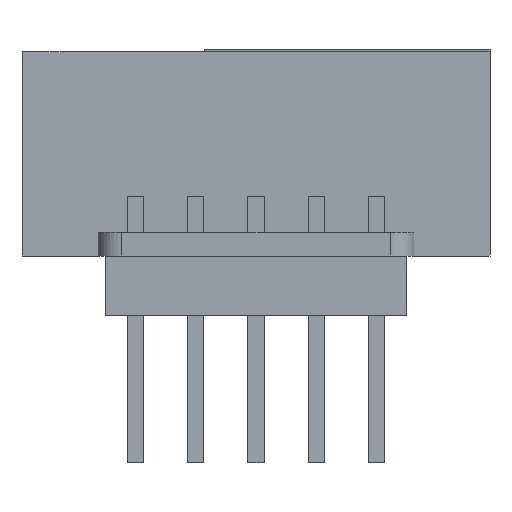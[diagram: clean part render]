
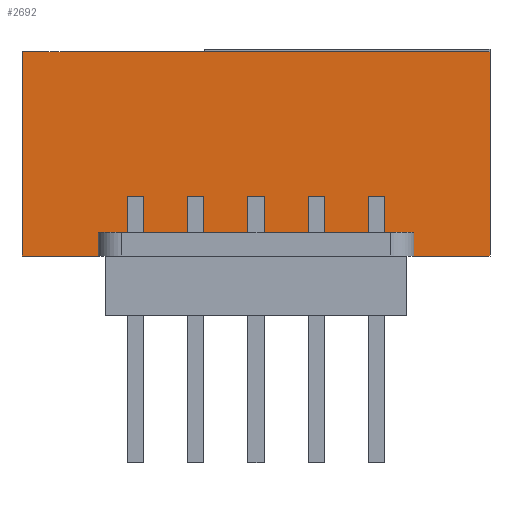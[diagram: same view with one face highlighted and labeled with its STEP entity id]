
A CAD part, left-side view. The second image highlights one B-rep face of the part: STEP entity #2692.
In plain terms, the highlighted planar face has unit normal (-1, 0, 0).
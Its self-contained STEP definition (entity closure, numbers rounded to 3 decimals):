
#189=PLANE('',#2930);
#338=FACE_OUTER_BOUND('',#524,.T.);
#524=EDGE_LOOP('',(#2475,#2476,#2477,#2478,#2479,#2480,#2481,#2482));
#769=LINE('',#4262,#1069);
#775=LINE('',#4287,#1075);
#794=LINE('',#4337,#1094);
#803=LINE('',#4355,#1103);
#805=LINE('',#4358,#1105);
#811=LINE('',#4370,#1111);
#816=LINE('',#4380,#1116);
#818=LINE('',#4383,#1118);
#1069=VECTOR('',#3507,10.);
#1075=VECTOR('',#3537,10.);
#1094=VECTOR('',#3588,10.);
#1103=VECTOR('',#3601,10.);
#1105=VECTOR('',#3605,10.);
#1111=VECTOR('',#3617,10.);
#1116=VECTOR('',#3626,10.);
#1118=VECTOR('',#3630,10.);
#1386=VERTEX_POINT('',#4250);
#1391=VERTEX_POINT('',#4260);
#1398=VERTEX_POINT('',#4286);
#1413=VERTEX_POINT('',#4336);
#1418=VERTEX_POINT('',#4349);
#1420=VERTEX_POINT('',#4353);
#1423=VERTEX_POINT('',#4369);
#1426=VERTEX_POINT('',#4379);
#1721=EDGE_CURVE('',#1391,#1386,#769,.T.);
#1733=EDGE_CURVE('',#1386,#1398,#775,.T.);
#1758=EDGE_CURVE('',#1413,#1398,#794,.T.);
#1767=EDGE_CURVE('',#1420,#1418,#803,.T.);
#1769=EDGE_CURVE('',#1413,#1420,#805,.T.);
#1775=EDGE_CURVE('',#1423,#1418,#811,.T.);
#1780=EDGE_CURVE('',#1426,#1423,#816,.T.);
#1782=EDGE_CURVE('',#1426,#1391,#818,.T.);
#2475=ORIENTED_EDGE('',*,*,#1733,.F.);
#2476=ORIENTED_EDGE('',*,*,#1721,.F.);
#2477=ORIENTED_EDGE('',*,*,#1782,.F.);
#2478=ORIENTED_EDGE('',*,*,#1780,.T.);
#2479=ORIENTED_EDGE('',*,*,#1775,.T.);
#2480=ORIENTED_EDGE('',*,*,#1767,.F.);
#2481=ORIENTED_EDGE('',*,*,#1769,.F.);
#2482=ORIENTED_EDGE('',*,*,#1758,.T.);
#2692=ADVANCED_FACE('',(#338),#189,.T.);
#2930=AXIS2_PLACEMENT_3D('',#4385,#3632,#3633);
#3507=DIRECTION('',(0.,0.,1.));
#3537=DIRECTION('',(0.,-1.,0.));
#3588=DIRECTION('',(0.,0.,1.));
#3601=DIRECTION('',(0.,0.,1.));
#3605=DIRECTION('',(0.,1.,0.));
#3617=DIRECTION('',(0.,-1.,0.));
#3626=DIRECTION('',(0.,0.,1.));
#3630=DIRECTION('',(0.,1.,0.));
#3632=DIRECTION('center_axis',(-1.,0.,0.));
#3633=DIRECTION('ref_axis',(0.,0.,1.));
#4250=CARTESIAN_POINT('',(1.725,4.77,8.6));
#4260=CARTESIAN_POINT('',(1.725,4.77,0.));
#4262=CARTESIAN_POINT('',(1.725,4.77,0.));
#4286=CARTESIAN_POINT('',(1.725,-14.93,8.6));
#4287=CARTESIAN_POINT('',(1.725,1.57,8.6));
#4336=CARTESIAN_POINT('',(1.725,-14.93,0.));
#4337=CARTESIAN_POINT('',(1.725,-14.93,0.));
#4349=CARTESIAN_POINT('',(1.725,-11.73,1.));
#4353=CARTESIAN_POINT('',(1.725,-11.73,0.));
#4355=CARTESIAN_POINT('',(1.725,-11.73,0.));
#4358=CARTESIAN_POINT('',(1.725,-14.93,0.));
#4369=CARTESIAN_POINT('',(1.725,1.57,1.));
#4370=CARTESIAN_POINT('',(1.725,1.57,1.));
#4379=CARTESIAN_POINT('',(1.725,1.57,0.));
#4380=CARTESIAN_POINT('',(1.725,1.57,0.));
#4383=CARTESIAN_POINT('',(1.725,-14.93,0.));
#4385=CARTESIAN_POINT('Origin',(1.725,1.57,1.));
